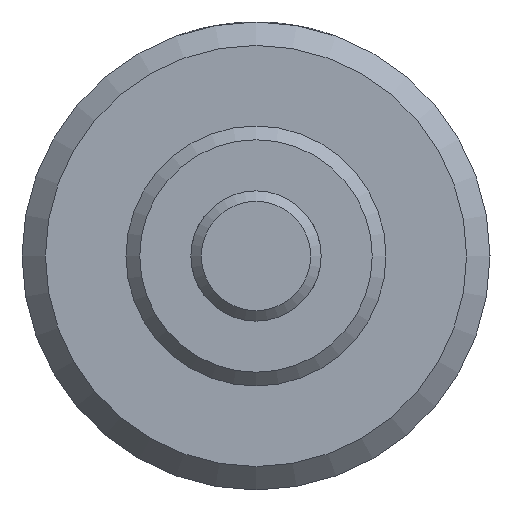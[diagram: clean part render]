
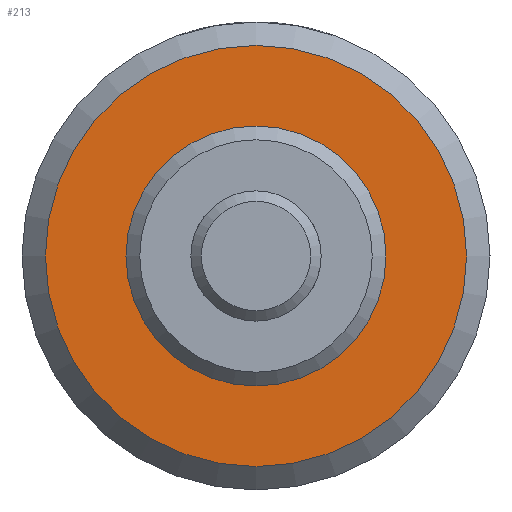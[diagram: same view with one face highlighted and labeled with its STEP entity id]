
A CAD part, left-side view. The second image highlights one B-rep face of the part: STEP entity #213.
In plain terms, the highlighted planar face has unit normal (-1, 0, 0).
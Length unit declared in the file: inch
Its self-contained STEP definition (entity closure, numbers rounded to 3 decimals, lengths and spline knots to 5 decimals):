
#213 = ADVANCED_FACE( '', ( #442, #443 ), #444, .F. );
#442 = FACE_OUTER_BOUND( '', #690, .T. );
#443 = FACE_BOUND( '', #691, .T. );
#444 = PLANE( '', #692 );
#690 = EDGE_LOOP( '', ( #1065 ) );
#691 = EDGE_LOOP( '', ( #1066 ) );
#692 = AXIS2_PLACEMENT_3D( '', #1067, #1068, #1069 );
#1065 = ORIENTED_EDGE( '', *, *, #1370, .F. );
#1066 = ORIENTED_EDGE( '', *, *, #1273, .T. );
#1067 = CARTESIAN_POINT( '', ( 0.5, 0.312, 0. ) );
#1068 = DIRECTION( '', ( 1., 0., 0. ) );
#1069 = DIRECTION( '', ( 0., 0., -1. ) );
#1273 = EDGE_CURVE( '', #1458, #1458, #1459, .T. );
#1370 = EDGE_CURVE( '', #1606, #1606, #1607, .T. );
#1458 = VERTEX_POINT( '', #1739 );
#1459 = CIRCLE( '', #1740, 0.312 );
#1606 = VERTEX_POINT( '', #2011 );
#1607 = CIRCLE( '', #2012, 0.50625 );
#1739 = CARTESIAN_POINT( '', ( 0.5, 0., -0.312 ) );
#1740 = AXIS2_PLACEMENT_3D( '', #2170, #2171, #2172 );
#2011 = CARTESIAN_POINT( '', ( 0.5, 0., -0.50625 ) );
#2012 = AXIS2_PLACEMENT_3D( '', #2291, #2292, #2293 );
#2170 = CARTESIAN_POINT( '', ( 0.5, 0., 0. ) );
#2171 = DIRECTION( '', ( 1., 0., 0. ) );
#2172 = DIRECTION( '', ( 0., 0., -1. ) );
#2291 = CARTESIAN_POINT( '', ( 0.5, 0., 0. ) );
#2292 = DIRECTION( '', ( 1., 0., 0. ) );
#2293 = DIRECTION( '', ( 0., 0., -1. ) );
